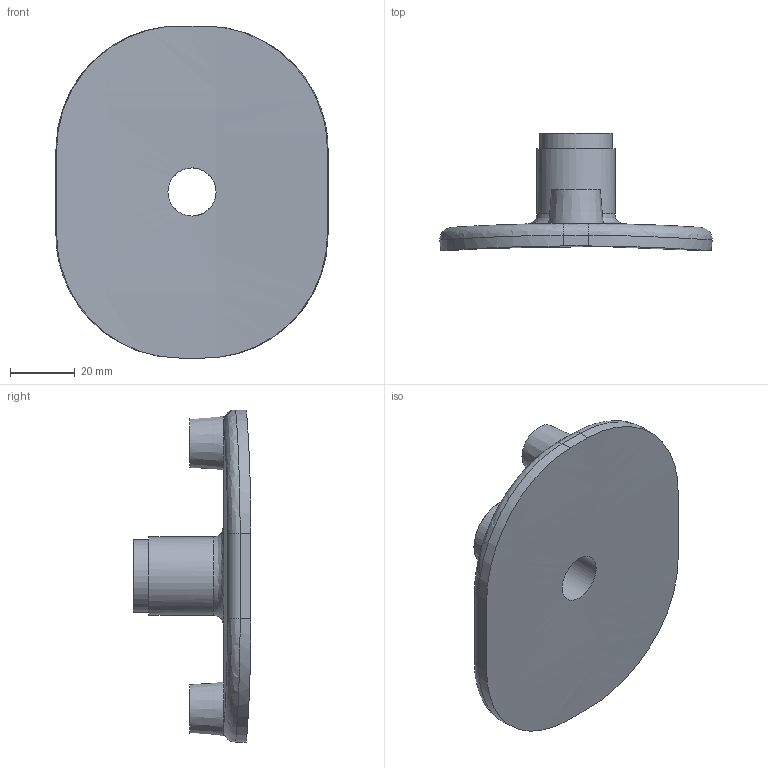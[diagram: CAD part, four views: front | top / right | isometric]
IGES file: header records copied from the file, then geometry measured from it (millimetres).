
Global section: file name: 5938S3900005.ipt; native system: Autodesk Inventor 2019; preprocessor: unknown; author: 12HКирилл; date: 20210830.101206; units: inch
Bounding box: 84.33 x 36.5 x 102.87 mm (x, y, z)
Volume: 59339.8 mm3; surface area: 21961.4 mm2
Topology: 1 solids, 1 shells, 43 faces, 93 edges, 59 vertices
Faces by surface type: plane 12, cylinder 12, revolution 11, bspline 5, cone 3
Full cylindrical faces by diameter (mm): 4 x2, 22.357 x1, 24.22 x1
